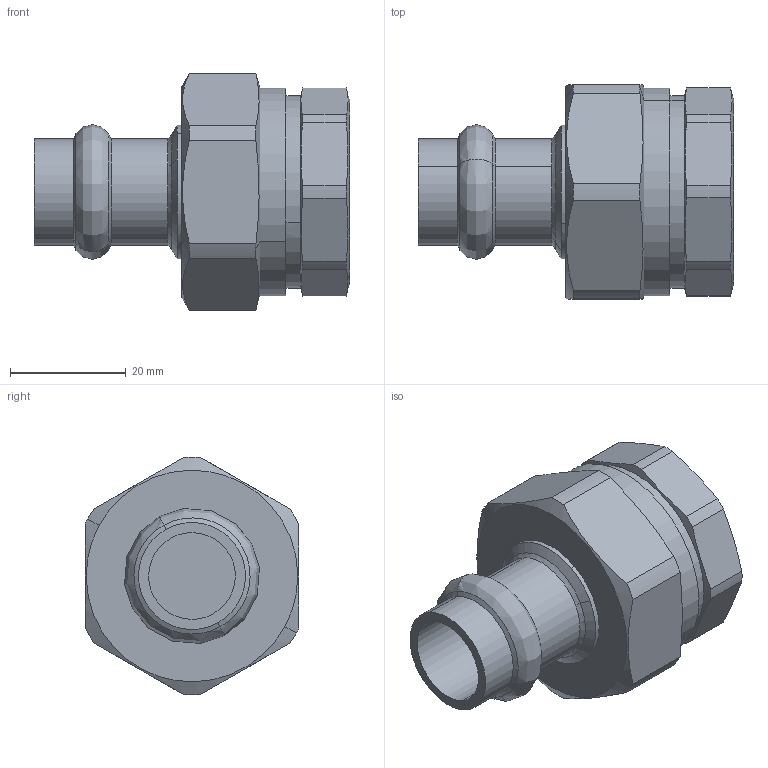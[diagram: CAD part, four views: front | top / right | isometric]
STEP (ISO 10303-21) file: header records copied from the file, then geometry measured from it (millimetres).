
FILE_DESCRIPTION(('STEP AP214'),'1');
FILE_NAME('pim0002753.stp','2016-06-07T08:38:49',('CAD-PIM'),('TransMagic, Inc.'),'TMR11sp0','TransMagic R11',' ');
FILE_SCHEMA(('AUTOMOTIVE_DESIGN'));
Length unit declared in the file: millimetre
Products named in the file (1): pim0002753
Bounding box: 54.5 x 37 x 41.09 mm (x, y, z)
Volume: 30377.5 mm3; surface area: 9291.6 mm2
Topology: 1 solids, 1 shells, 68 faces, 176 edges, 114 vertices
Faces by surface type: bspline 68
Entity records: 4571 total; most frequent: CARTESIAN_POINT 1139, STYLED_ITEM 359, PRESENTATION_STYLE_ASSIGNMENT 359, COLOUR_RGB 359, ORIENTED_EDGE 352, DIRECTION 223, EDGE_CURVE 176, CURVE_STYLE 176
